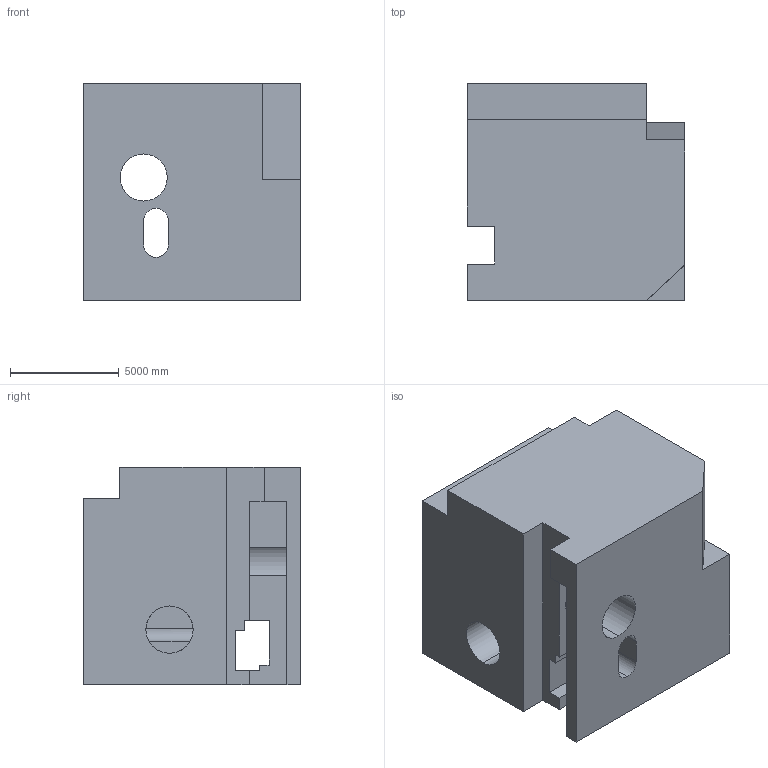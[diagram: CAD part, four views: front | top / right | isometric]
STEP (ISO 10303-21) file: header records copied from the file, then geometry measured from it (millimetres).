
FILE_DESCRIPTION (( 'STEP AP203' ), '1' );
FILE_NAME ('1922.STEP', '2022-08-23T09:30:54', ( 'user' ), ( '' ), 'SwSTEP 2.0', 'SolidWorks 2021', '' );
FILE_SCHEMA (( 'CONFIG_CONTROL_DESIGN' ));
Length unit declared in the file: centimetre
Products named in the file (1): 1922
Bounding box: 10000 x 10000 x 10000 mm (x, y, z)
Volume: 796083194140.9 mm3; surface area: 787249594.1 mm2
Topology: 1 solids, 1 shells, 46 faces, 147 edges, 98 vertices
Faces by surface type: plane 36, cylinder 10
Entity records: 1836 total; most frequent: CARTESIAN_POINT 420, ORIENTED_EDGE 294, DIRECTION 261, EDGE_CURVE 147, VECTOR 119, LINE 119, VERTEX_POINT 98, AXIS2_PLACEMENT_3D 71
